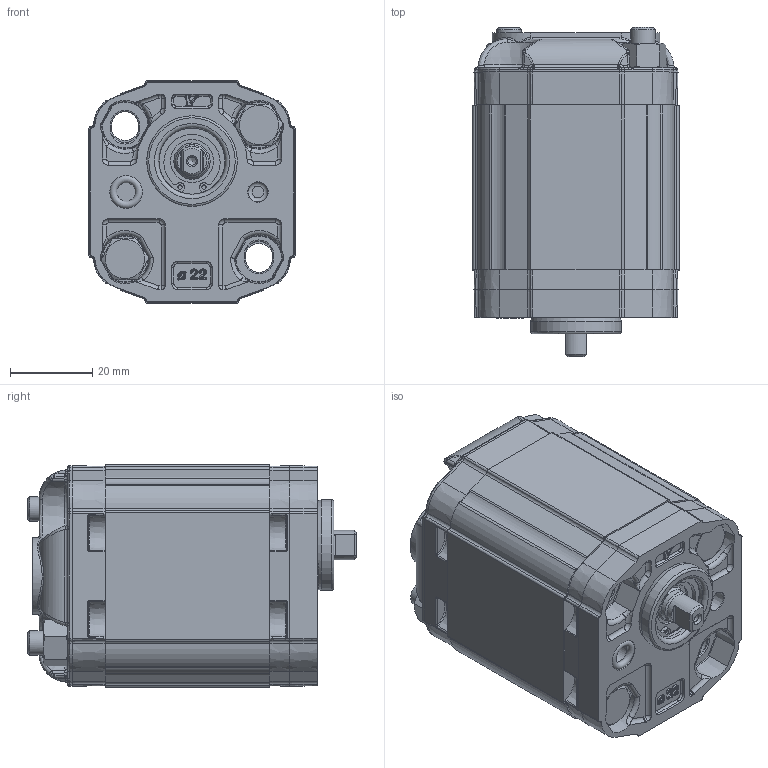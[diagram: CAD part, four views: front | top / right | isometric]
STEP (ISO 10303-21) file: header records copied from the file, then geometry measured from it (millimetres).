
FILE_DESCRIPTION(/* description */ ('Unknown'),/* implementation_level */ '2;1');
FILE_NAME(/* name */ 'X0P1123BZZB',/* time_stamp */ '2026-05-25T16:56:03+02:00',/* author */ ('Unknown'),/* organization */ ('Unknown'),/* preprocessor_version */ 'ST-DEVELOPER v16.7',/* originating_system */ 'Solid Edge',/* authorisation */ 'Unknown');
FILE_SCHEMA (('AUTOMOTIVE_DESIGN {1 0 10303 214 3 1 1}'));
Products named in the file (5): X0P1123BZZB; X0P23; 0B; X0ZZH40; XP017-B
Assembly tree (4 placements, depth 2):
  X0P1123BZZB
    X0P23
    0B
    X0ZZH40
    XP017-B
Bounding box: 50 x 79.8 x 54 mm (x, y, z)
Volume: 148373 mm3; surface area: 36801.3 mm2
Topology: 5 solids, 6 shells, 1578 faces, 3833 edges, 2283 vertices
Faces by surface type: cylinder 446, plane 378, bspline 329, cone 228, torus 164, sphere 33
Full cylindrical faces by diameter (mm): 1.053 x2, 2 x1, 5 x1, 6 x4, 6.01 x2, 6.5 x4, 6.511 x1, 6.518 x1, 7.16 x1, 7.5 x2, 7.9 x2, 7.92 x1, 8 x2, 9.318 x1, 10 x2, 10.445 x1, 11 x1, 11.445 x1, 13 x1, 14 x1, 16 x1, 16.2 x1, 16.8 x1, 22 x1
Entity records: 105135 total; most frequent: CARTESIAN_POINT 60320, ORIENTED_EDGE 7302, DIRECTION 6480, EDGE_CURVE 3651, AXIS2_PLACEMENT_3D 2689, VERTEX_POINT 2231, FACE_BOUND 1772, EDGE_LOOP 1771
